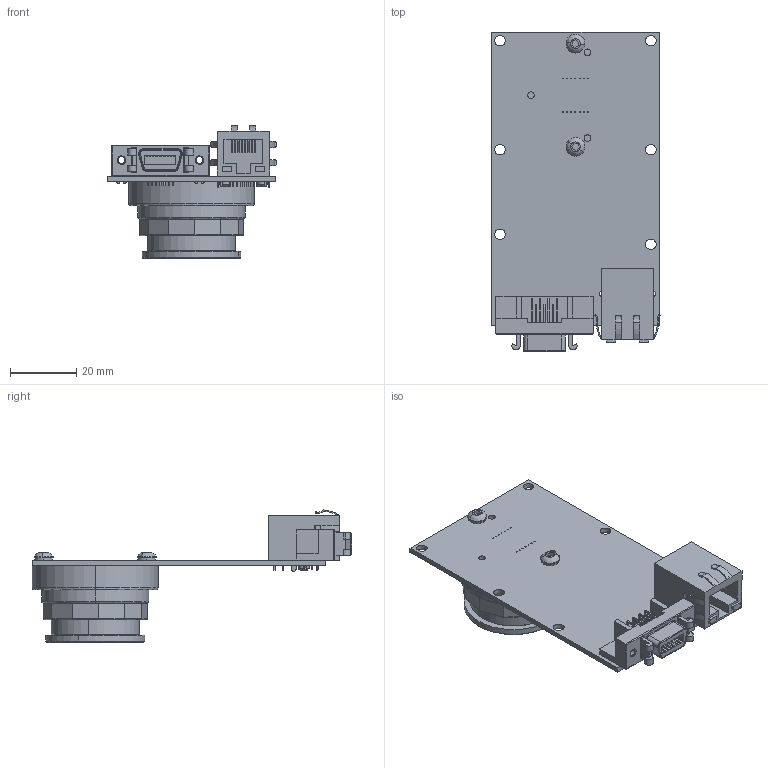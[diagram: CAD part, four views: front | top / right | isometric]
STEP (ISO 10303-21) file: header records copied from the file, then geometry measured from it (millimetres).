
FILE_DESCRIPTION (( 'STEP AP214' ), '1' );
FILE_NAME ('GB660.STEP', '2013-07-31T22:40:40', ( '' ), ( '' ), 'SwSTEP 2.0', 'SolidWorks 2013', '' );
FILE_SCHEMA (( 'AUTOMOTIVE_DESIGN' ));
Length unit declared in the file: millimetre
Products named in the file (16): GB660; 220119-SONY ICX618ALA; SONY ICX618 WINDOW; SONY ICX618 BODY; 110094A-GB CCD GASKET; 110003AC-CV CMOUNT RING; 140008-washer spring lock #4; 140004-LOW COST C-MOUNT CAP; 110078A-GB MOUNT; 140027-SCREW BUTTON M3x6 SS; 200087B-GB660-LS-RA; 260036-HALO HFJ11-1G16E-L12RL; 200084B-GB660-LS; 210046B-GB1380-650-LS; 260039-3M 10214-55G3PC; 110031A-B EC-CCD LOCKING RING
Assembly tree (17 placements, depth 4):
  GB660
    110031A-B EC-CCD LOCKING RING
    200087B-GB660-LS-RA
      260039-3M 10214-55G3PC
      200084B-GB660-LS
        210046B-GB1380-650-LS
      260036-HALO HFJ11-1G16E-L12RL
    140027-SCREW BUTTON M3x6 SS  x2
    110078A-GB MOUNT
    140004-LOW COST C-MOUNT CAP
    140008-washer spring lock #4  x2
    110003AC-CV CMOUNT RING
    110094A-GB CCD GASKET
    220119-SONY ICX618ALA
      SONY ICX618 BODY
      SONY ICX618 WINDOW
Bounding box: 51.12 x 96.77 x 40 mm (x, y, z)
Volume: 21157.3 mm3; surface area: 28261.8 mm2
Topology: 14 solids, 14 shells, 1340 faces, 3480 edges, 2217 vertices
Faces by surface type: plane 794, cylinder 340, cone 180, bspline 26
Entity records: 56543 total; most frequent: CARTESIAN_POINT 8568, ORIENTED_EDGE 6832, DIRECTION 6805, EDGE_CURVE 3416, VECTOR 2501, LINE 2501, VERTEX_POINT 2181, AXIS2_PLACEMENT_3D 2152
